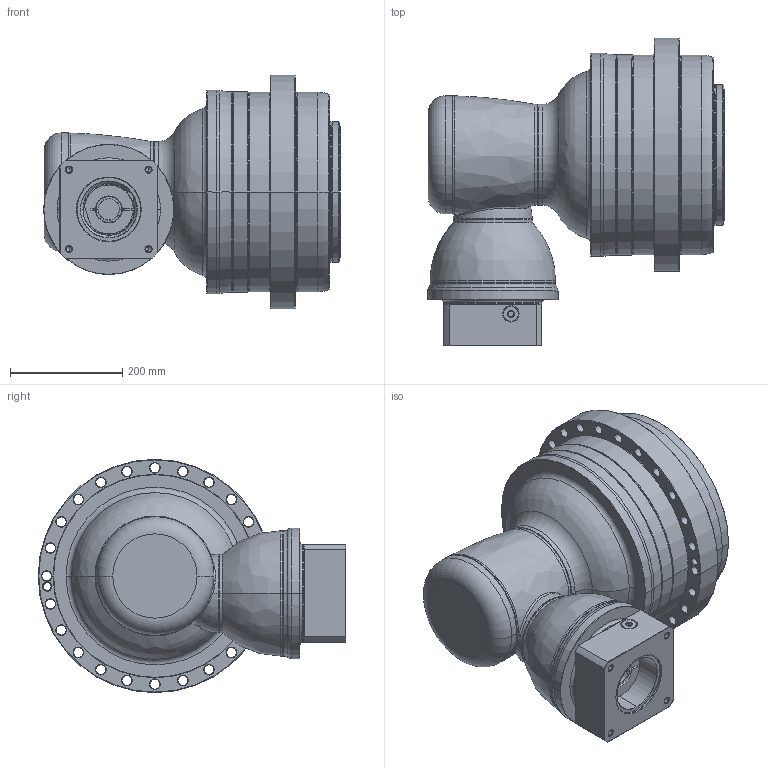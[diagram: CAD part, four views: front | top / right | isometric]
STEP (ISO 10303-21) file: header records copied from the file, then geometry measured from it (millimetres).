
FILE_DESCRIPTION((''),'2;1');
FILE_NAME('APK355_3ST_38-P0409910201_ASM','2018-11-21T',('D00080'),(''),'PRO/ENGINEER BY PARAMETRIC TECHNOLOGY CORPORATION, 2015240','PRO/ENGINEER BY PARAMETRIC TECHNOLOGY CORPORATION, 2015240','');
FILE_SCHEMA(('CONFIG_CONTROL_DESIGN'));
Length unit declared in the file: millimetre
Products named in the file (13): P1008600002; P1315600001; P1007601001; P1318610201; P1821110001; P0276101003; P0357101103; P1222100001; P0503900012; P0912652001; P0409910201; 21711422019; APK355_3ST_38-P0409910201_ASM
Assembly tree (12 placements, depth 2):
  APK355_3ST_38-P0409910201_ASM
    P1008600002
    P1315600001
    P1007601001
    P1318610201
    P1821110001
    P0276101003
    P0357101103
    P1222100001
    P0503900012
    P0912652001
    P0409910201
    21711422019
Bounding box: 528 x 547 x 415 mm (x, y, z)
Volume: 43405629.2 mm3; surface area: 2140266.7 mm2
Topology: 13 solids, 40 shells, 809 faces, 1838 edges, 1103 vertices
Faces by surface type: cylinder 321, cone 232, plane 130, torus 93, bspline 31, sphere 2
Entity records: 29158 total; most frequent: CARTESIAN_POINT 10328, DIRECTION 4339, ORIENTED_EDGE 3478, AXIS2_PLACEMENT_3D 1860, EDGE_CURVE 1794, VERTEX_POINT 1103, CIRCLE 1045, EDGE_LOOP 969
